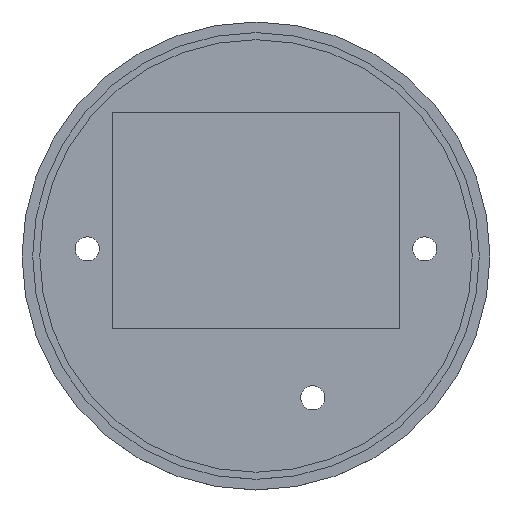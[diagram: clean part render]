
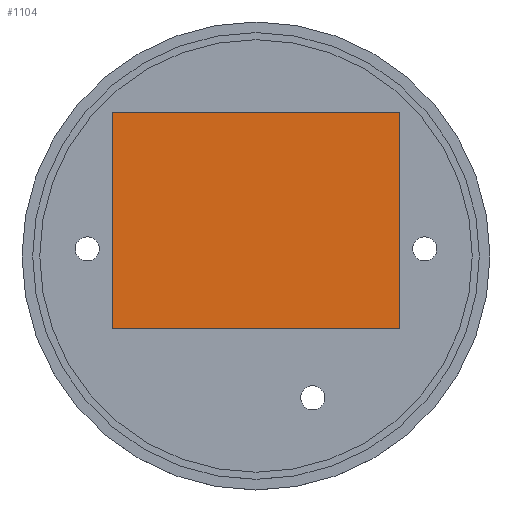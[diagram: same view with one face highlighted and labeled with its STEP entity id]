
A CAD part, top view. The second image highlights one B-rep face of the part: STEP entity #1104.
In plain terms, the highlighted planar face has unit normal (0, 0, 1).
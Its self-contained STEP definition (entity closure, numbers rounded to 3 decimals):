
#814 = PLANE('',#815);
#815 = AXIS2_PLACEMENT_3D('',#816,#817,#818);
#816 = CARTESIAN_POINT('',(-20.25,-5.25,1.2));
#817 = DIRECTION('',(1.,0.,0.));
#818 = DIRECTION('',(0.,0.,1.));
#840 = PLANE('',#841);
#841 = AXIS2_PLACEMENT_3D('',#842,#843,#844);
#842 = CARTESIAN_POINT('',(-20.25,25.25,1.2));
#843 = DIRECTION('',(0.,1.,0.));
#844 = DIRECTION('',(0.,0.,1.));
#866 = PLANE('',#867);
#867 = AXIS2_PLACEMENT_3D('',#868,#869,#870);
#868 = CARTESIAN_POINT('',(20.25,-5.25,1.2));
#869 = DIRECTION('',(1.,0.,0.));
#870 = DIRECTION('',(0.,0.,1.));
#890 = PLANE('',#891);
#891 = AXIS2_PLACEMENT_3D('',#892,#893,#894);
#892 = CARTESIAN_POINT('',(-20.25,-5.25,1.2));
#893 = DIRECTION('',(0.,1.,0.));
#894 = DIRECTION('',(0.,0.,1.));
#908 = VERTEX_POINT('',#909);
#909 = CARTESIAN_POINT('',(-20.25,-5.25,1.2));
#930 = EDGE_CURVE('',#908,#931,#933,.T.);
#931 = VERTEX_POINT('',#932);
#932 = CARTESIAN_POINT('',(-20.25,25.25,1.2));
#933 = SURFACE_CURVE('',#934,(#938,#945),.PCURVE_S1.);
#934 = LINE('',#935,#936);
#935 = CARTESIAN_POINT('',(-20.25,-5.25,1.2));
#936 = VECTOR('',#937,1.);
#937 = DIRECTION('',(0.,1.,0.));
#938 = PCURVE('',#814,#939);
#939 = DEFINITIONAL_REPRESENTATION('',(#940),#944);
#940 = LINE('',#941,#942);
#941 = CARTESIAN_POINT('',(0.,0.));
#942 = VECTOR('',#943,1.);
#943 = DIRECTION('',(0.,-1.));
#944 = ( GEOMETRIC_REPRESENTATION_CONTEXT(2) 
PARAMETRIC_REPRESENTATION_CONTEXT() REPRESENTATION_CONTEXT('2D SPACE',''
  ) );
#945 = PCURVE('',#946,#951);
#946 = PLANE('',#947);
#947 = AXIS2_PLACEMENT_3D('',#948,#949,#950);
#948 = CARTESIAN_POINT('',(-20.25,-5.25,1.2));
#949 = DIRECTION('',(0.,0.,1.));
#950 = DIRECTION('',(1.,0.,0.));
#951 = DEFINITIONAL_REPRESENTATION('',(#952),#956);
#952 = LINE('',#953,#954);
#953 = CARTESIAN_POINT('',(0.,0.));
#954 = VECTOR('',#955,1.);
#955 = DIRECTION('',(0.,1.));
#956 = ( GEOMETRIC_REPRESENTATION_CONTEXT(2) 
PARAMETRIC_REPRESENTATION_CONTEXT() REPRESENTATION_CONTEXT('2D SPACE',''
  ) );
#984 = VERTEX_POINT('',#985);
#985 = CARTESIAN_POINT('',(20.25,25.25,1.2));
#1006 = EDGE_CURVE('',#931,#984,#1007,.T.);
#1007 = SURFACE_CURVE('',#1008,(#1012,#1019),.PCURVE_S1.);
#1008 = LINE('',#1009,#1010);
#1009 = CARTESIAN_POINT('',(-20.25,25.25,1.2));
#1010 = VECTOR('',#1011,1.);
#1011 = DIRECTION('',(1.,0.,0.));
#1012 = PCURVE('',#840,#1013);
#1013 = DEFINITIONAL_REPRESENTATION('',(#1014),#1018);
#1014 = LINE('',#1015,#1016);
#1015 = CARTESIAN_POINT('',(0.,0.));
#1016 = VECTOR('',#1017,1.);
#1017 = DIRECTION('',(0.,1.));
#1018 = ( GEOMETRIC_REPRESENTATION_CONTEXT(2) 
PARAMETRIC_REPRESENTATION_CONTEXT() REPRESENTATION_CONTEXT('2D SPACE',''
  ) );
#1019 = PCURVE('',#946,#1020);
#1020 = DEFINITIONAL_REPRESENTATION('',(#1021),#1025);
#1021 = LINE('',#1022,#1023);
#1022 = CARTESIAN_POINT('',(0.,30.5));
#1023 = VECTOR('',#1024,1.);
#1024 = DIRECTION('',(1.,0.));
#1025 = ( GEOMETRIC_REPRESENTATION_CONTEXT(2) 
PARAMETRIC_REPRESENTATION_CONTEXT() REPRESENTATION_CONTEXT('2D SPACE',''
  ) );
#1033 = VERTEX_POINT('',#1034);
#1034 = CARTESIAN_POINT('',(20.25,-5.25,1.2));
#1055 = EDGE_CURVE('',#908,#1033,#1056,.T.);
#1056 = SURFACE_CURVE('',#1057,(#1061,#1068),.PCURVE_S1.);
#1057 = LINE('',#1058,#1059);
#1058 = CARTESIAN_POINT('',(-20.25,-5.25,1.2));
#1059 = VECTOR('',#1060,1.);
#1060 = DIRECTION('',(1.,0.,0.));
#1061 = PCURVE('',#890,#1062);
#1062 = DEFINITIONAL_REPRESENTATION('',(#1063),#1067);
#1063 = LINE('',#1064,#1065);
#1064 = CARTESIAN_POINT('',(0.,0.));
#1065 = VECTOR('',#1066,1.);
#1066 = DIRECTION('',(0.,1.));
#1067 = ( GEOMETRIC_REPRESENTATION_CONTEXT(2) 
PARAMETRIC_REPRESENTATION_CONTEXT() REPRESENTATION_CONTEXT('2D SPACE',''
  ) );
#1068 = PCURVE('',#946,#1069);
#1069 = DEFINITIONAL_REPRESENTATION('',(#1070),#1074);
#1070 = LINE('',#1071,#1072);
#1071 = CARTESIAN_POINT('',(0.,0.));
#1072 = VECTOR('',#1073,1.);
#1073 = DIRECTION('',(1.,0.));
#1074 = ( GEOMETRIC_REPRESENTATION_CONTEXT(2) 
PARAMETRIC_REPRESENTATION_CONTEXT() REPRESENTATION_CONTEXT('2D SPACE',''
  ) );
#1082 = EDGE_CURVE('',#1033,#984,#1083,.T.);
#1083 = SURFACE_CURVE('',#1084,(#1088,#1095),.PCURVE_S1.);
#1084 = LINE('',#1085,#1086);
#1085 = CARTESIAN_POINT('',(20.25,-5.25,1.2));
#1086 = VECTOR('',#1087,1.);
#1087 = DIRECTION('',(0.,1.,0.));
#1088 = PCURVE('',#866,#1089);
#1089 = DEFINITIONAL_REPRESENTATION('',(#1090),#1094);
#1090 = LINE('',#1091,#1092);
#1091 = CARTESIAN_POINT('',(0.,0.));
#1092 = VECTOR('',#1093,1.);
#1093 = DIRECTION('',(0.,-1.));
#1094 = ( GEOMETRIC_REPRESENTATION_CONTEXT(2) 
PARAMETRIC_REPRESENTATION_CONTEXT() REPRESENTATION_CONTEXT('2D SPACE',''
  ) );
#1095 = PCURVE('',#946,#1096);
#1096 = DEFINITIONAL_REPRESENTATION('',(#1097),#1101);
#1097 = LINE('',#1098,#1099);
#1098 = CARTESIAN_POINT('',(40.5,0.));
#1099 = VECTOR('',#1100,1.);
#1100 = DIRECTION('',(0.,1.));
#1101 = ( GEOMETRIC_REPRESENTATION_CONTEXT(2) 
PARAMETRIC_REPRESENTATION_CONTEXT() REPRESENTATION_CONTEXT('2D SPACE',''
  ) );
#1104 = ADVANCED_FACE('',(#1105),#946,.T.);
#1105 = FACE_BOUND('',#1106,.T.);
#1106 = EDGE_LOOP('',(#1107,#1108,#1109,#1110));
#1107 = ORIENTED_EDGE('',*,*,#930,.F.);
#1108 = ORIENTED_EDGE('',*,*,#1055,.T.);
#1109 = ORIENTED_EDGE('',*,*,#1082,.T.);
#1110 = ORIENTED_EDGE('',*,*,#1006,.F.);
